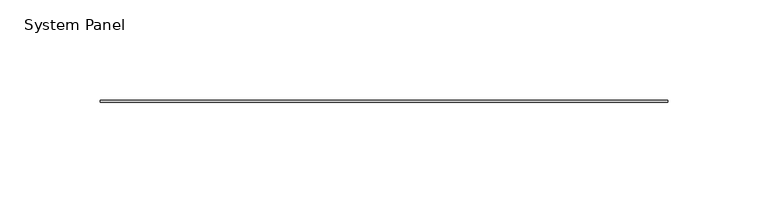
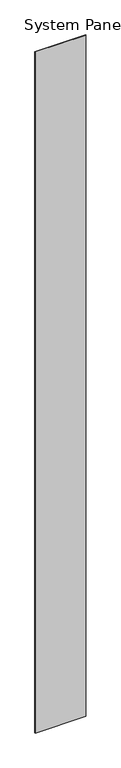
"""IFC4 building model written with IfcOpenShell, lengths in millimetres: plate geometry, System Panel : Stratco_Hiland_Interlock_Panel."""

from ifc_helpers import new_model, si_unit, origin, origin_with_axes, place, context, project, spatial, polyline, outline, extrude, source, transform, mapped, element, save


def system_panel_4f88c502(model_context):
    return source(origin(), model_context, "Body", "SweptSolid", [
        extrude(outline(polyline([(141.5000002, 24.0), (-141.5000002, 24.0), (-141.5000002, 25.0), (141.5000002, 25.0), (141.5000002, 24.0)])), origin_with_axes(), (0.0, 0.0, 1.0), 4000.0),
    ])


if __name__ == "__main__":
    model = new_model("IFC4")
    model_context = context("Model", 3, world=origin())
    ifc_project = project(units=[si_unit("LENGTHUNIT", "METRE", prefix="MILLI")], contexts=[model_context])
    site = spatial("IfcSite", under=ifc_project)
    building = spatial("IfcBuilding", under=site)
    placement = place(None, origin())
    system_panel_shape = system_panel_4f88c502(model_context)
    element("IfcPlate", 1, ObjectType="System Panel : Stratco_Hiland_Interlock_Panel", at=placement, inside=building, context=model_context, shape_type="MappedRepresentation", body=[
        mapped(system_panel_shape, transform((0.0, 0.0, 0.0), x_axis=(1.0, 0.0, 0.0), y_axis=(0.0, 1.0, 0.0), z_axis=(0.0, 0.0, 1.0))),
    ])
    save(model, "model.ifc")
